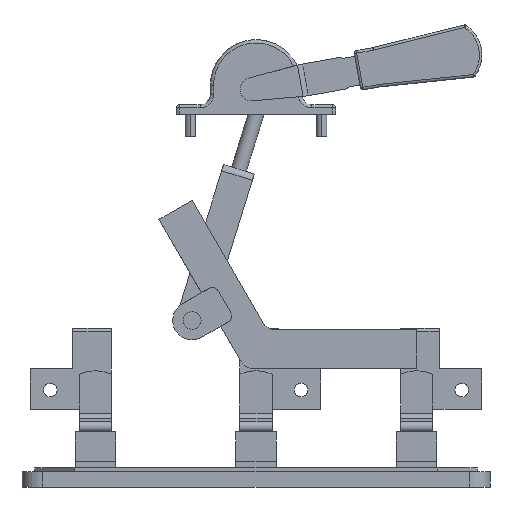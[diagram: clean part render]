
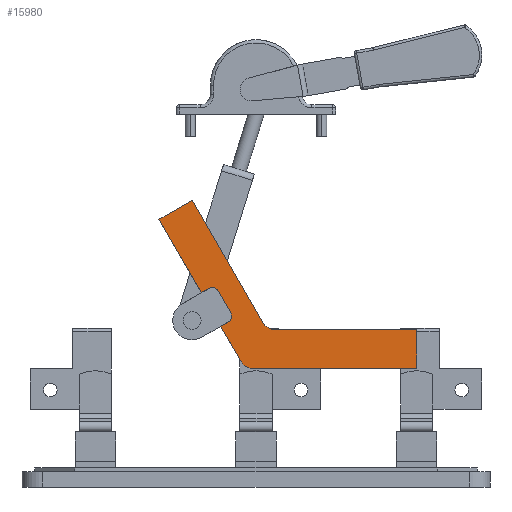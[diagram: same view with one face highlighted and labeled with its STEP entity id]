
A CAD part, left-side view. The second image highlights one B-rep face of the part: STEP entity #15980.
In plain terms, the highlighted planar face has unit normal (-1, 0, 0).
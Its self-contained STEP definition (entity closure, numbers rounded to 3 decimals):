
#36 = EDGE_CURVE ( 'NONE', #19304, #9626, #3433, .T. ) ;
#90 = DIRECTION ( 'NONE',  ( 0., 0., 1. ) ) ;
#327 = AXIS2_PLACEMENT_3D ( 'NONE', #7653, #26578, #5295 ) ;
#513 = VERTEX_POINT ( 'NONE', #24339 ) ;
#598 = LINE ( 'NONE', #20245, #29579 ) ;
#845 = VECTOR ( 'NONE', #14779, 1000. ) ;
#1955 = CARTESIAN_POINT ( 'NONE',  ( -88.5, 75.49, 193.253 ) ) ;
#3057 = VERTEX_POINT ( 'NONE', #16628 ) ;
#3433 = CIRCLE ( 'NONE', #24773, 10. ) ;
#3671 = LINE ( 'NONE', #7269, #27598 ) ;
#3683 = LINE ( 'NONE', #8233, #17711 ) ;
#3804 = LINE ( 'NONE', #1955, #22949 ) ;
#3987 = CARTESIAN_POINT ( 'NONE',  ( -88.5, 75.49, 193.253 ) ) ;
#4647 = ORIENTED_EDGE ( 'NONE', *, *, #29422, .T. ) ;
#5295 = DIRECTION ( 'NONE',  ( 0., 0., 1. ) ) ;
#5375 = LINE ( 'NONE', #24725, #7954 ) ;
#6094 = ORIENTED_EDGE ( 'NONE', *, *, #36, .T. ) ;
#6263 = ORIENTED_EDGE ( 'NONE', *, *, #9089, .F. ) ;
#6284 = VERTEX_POINT ( 'NONE', #15504 ) ;
#6350 = CARTESIAN_POINT ( 'NONE',  ( -88.5, 29.598, 137.765 ) ) ;
#6451 = CARTESIAN_POINT ( 'NONE',  ( -88.5, 19.598, 120.445 ) ) ;
#6539 = DIRECTION ( 'NONE',  ( 0., -0.5, -0.866 ) ) ;
#6698 = VERTEX_POINT ( 'NONE', #20008 ) ;
#6907 = DIRECTION ( 'NONE',  ( 0., 0., 1. ) ) ;
#7269 = CARTESIAN_POINT ( 'NONE',  ( -88.5, 49.51, 208.253 ) ) ;
#7613 = ORIENTED_EDGE ( 'NONE', *, *, #27451, .T. ) ;
#7653 = CARTESIAN_POINT ( 'NONE',  ( -88.5, 2.887, 87.5 ) ) ;
#7697 = EDGE_CURVE ( 'NONE', #3057, #6284, #16810, .T. ) ;
#7862 = DIRECTION ( 'NONE',  ( -1., 0., 0. ) ) ;
#7943 = VECTOR ( 'NONE', #8639, 1000. ) ;
#7954 = VECTOR ( 'NONE', #15209, 1000. ) ;
#8233 = CARTESIAN_POINT ( 'NONE',  ( -88.5, 75.49, 193.253 ) ) ;
#8314 = ORIENTED_EDGE ( 'NONE', *, *, #30448, .T. ) ;
#8579 = EDGE_CURVE ( 'NONE', #18324, #21338, #22901, .T. ) ;
#8639 = DIRECTION ( 'NONE',  ( 0., 0.5, 0.866 ) ) ;
#8853 = CARTESIAN_POINT ( 'NONE',  ( -88.5, -125., 77.5 ) ) ;
#9089 = EDGE_CURVE ( 'NONE', #513, #14436, #28773, .T. ) ;
#9626 = VERTEX_POINT ( 'NONE', #26834 ) ;
#9708 = DIRECTION ( 'NONE',  ( 1., 0., 0. ) ) ;
#9936 = EDGE_CURVE ( 'NONE', #10744, #10662, #19832, .T. ) ;
#10384 = CARTESIAN_POINT ( 'NONE',  ( -88.5, 42.49, 136.095 ) ) ;
#10617 = CIRCLE ( 'NONE', #24225, 5. ) ;
#10662 = VERTEX_POINT ( 'NONE', #10384 ) ;
#10741 = ORIENTED_EDGE ( 'NONE', *, *, #9936, .T. ) ;
#10744 = VERTEX_POINT ( 'NONE', #3987 ) ;
#10873 = EDGE_CURVE ( 'NONE', #29692, #3057, #19715, .T. ) ;
#11470 = ORIENTED_EDGE ( 'NONE', *, *, #7697, .F. ) ;
#11510 = DIRECTION ( 'NONE',  ( -1., 0., 0. ) ) ;
#11746 = CARTESIAN_POINT ( 'NONE',  ( -88.5, -14.434, 117.5 ) ) ;
#12698 = CARTESIAN_POINT ( 'NONE',  ( -88.5, 21.428, 113.615 ) ) ;
#13015 = AXIS2_PLACEMENT_3D ( 'NONE', #25584, #11510, #13890 ) ;
#13486 = CARTESIAN_POINT ( 'NONE',  ( -88.5, -125., 107.5 ) ) ;
#13549 = CARTESIAN_POINT ( 'NONE',  ( -88.5, 75.49, 193.253 ) ) ;
#13658 = EDGE_LOOP ( 'NONE', ( #24139, #11470, #30073, #17266, #6263, #22240, #18654, #24106, #8314, #19991, #6094, #7613, #4647, #10741 ) ) ;
#13876 = DIRECTION ( 'NONE',  ( -1., 0., 0. ) ) ;
#13890 = DIRECTION ( 'NONE',  ( 0., 0., -1. ) ) ;
#14436 = VERTEX_POINT ( 'NONE', #15384 ) ;
#14779 = DIRECTION ( 'NONE',  ( 0., -1., 0. ) ) ;
#15209 = DIRECTION ( 'NONE',  ( 0., 1., 0. ) ) ;
#15384 = CARTESIAN_POINT ( 'NONE',  ( -88.5, 21.428, 113.615 ) ) ;
#15504 = CARTESIAN_POINT ( 'NONE',  ( -88.5, 36.428, 139.595 ) ) ;
#15674 = CARTESIAN_POINT ( 'NONE',  ( -88.5, 2.887, 87.5 ) ) ;
#15891 = CARTESIAN_POINT ( 'NONE',  ( -88.5, -14.434, 107.5 ) ) ;
#15980 = ADVANCED_FACE ( 'NONE', ( #23628 ), #26388, .T. ) ;
#16089 = VECTOR ( 'NONE', #90, 1000. ) ;
#16149 = EDGE_CURVE ( 'NONE', #6698, #18324, #19561, .T. ) ;
#16628 = CARTESIAN_POINT ( 'NONE',  ( -88.5, 29.598, 137.765 ) ) ;
#16810 = CIRCLE ( 'NONE', #13015, 5. ) ;
#16847 = CARTESIAN_POINT ( 'NONE',  ( -88.5, -125., 77.5 ) ) ;
#17063 = CARTESIAN_POINT ( 'NONE',  ( -88.5, 2.887, 77.5 ) ) ;
#17266 = ORIENTED_EDGE ( 'NONE', *, *, #29735, .F. ) ;
#17275 = EDGE_CURVE ( 'NONE', #24014, #19304, #5375, .T. ) ;
#17711 = VECTOR ( 'NONE', #29181, 1000. ) ;
#18324 = VERTEX_POINT ( 'NONE', #18964 ) ;
#18513 = CARTESIAN_POINT ( 'NONE',  ( -88.5, 23.928, 117.945 ) ) ;
#18654 = ORIENTED_EDGE ( 'NONE', *, *, #16149, .T. ) ;
#18964 = CARTESIAN_POINT ( 'NONE',  ( -88.5, 2.887, 77.5 ) ) ;
#19304 = VERTEX_POINT ( 'NONE', #15891 ) ;
#19561 = CIRCLE ( 'NONE', #20961, 10. ) ;
#19715 = LINE ( 'NONE', #6350, #7943 ) ;
#19832 = LINE ( 'NONE', #13549, #26462 ) ;
#19952 = DIRECTION ( 'NONE',  ( 0., 0.866, -0.5 ) ) ;
#19991 = ORIENTED_EDGE ( 'NONE', *, *, #17275, .T. ) ;
#20008 = CARTESIAN_POINT ( 'NONE',  ( -88.5, 11.547, 82.5 ) ) ;
#20245 = CARTESIAN_POINT ( 'NONE',  ( -88.5, 36.428, 139.595 ) ) ;
#20366 = DIRECTION ( 'NONE',  ( 0., -0.5, -0.866 ) ) ;
#20874 = DIRECTION ( 'NONE',  ( 0., 0., -1. ) ) ;
#20961 = AXIS2_PLACEMENT_3D ( 'NONE', #15674, #7862, #29616 ) ;
#21267 = LINE ( 'NONE', #16847, #16089 ) ;
#21338 = VERTEX_POINT ( 'NONE', #8853 ) ;
#21981 = DIRECTION ( 'NONE',  ( 0., -0.866, 0.5 ) ) ;
#22240 = ORIENTED_EDGE ( 'NONE', *, *, #28545, .T. ) ;
#22901 = LINE ( 'NONE', #17063, #845 ) ;
#22949 = VECTOR ( 'NONE', #20366, 1000. ) ;
#23628 = FACE_OUTER_BOUND ( 'NONE', #13658, .T. ) ;
#23738 = DIRECTION ( 'NONE',  ( 0., 0.5, 0.866 ) ) ;
#24014 = VERTEX_POINT ( 'NONE', #13486 ) ;
#24106 = ORIENTED_EDGE ( 'NONE', *, *, #8579, .T. ) ;
#24139 = ORIENTED_EDGE ( 'NONE', *, *, #26155, .F. ) ;
#24225 = AXIS2_PLACEMENT_3D ( 'NONE', #18513, #13876, #20874 ) ;
#24339 = CARTESIAN_POINT ( 'NONE',  ( -88.5, 27.49, 110.115 ) ) ;
#24725 = CARTESIAN_POINT ( 'NONE',  ( -88.5, -14.434, 107.5 ) ) ;
#24773 = AXIS2_PLACEMENT_3D ( 'NONE', #11746, #9708, #6907 ) ;
#25584 = CARTESIAN_POINT ( 'NONE',  ( -88.5, 33.928, 135.265 ) ) ;
#25598 = VERTEX_POINT ( 'NONE', #29607 ) ;
#26155 = EDGE_CURVE ( 'NONE', #6284, #10662, #598, .T. ) ;
#26388 = PLANE ( 'NONE',  #327 ) ;
#26462 = VECTOR ( 'NONE', #6539, 1000. ) ;
#26578 = DIRECTION ( 'NONE',  ( -1., 0., 0. ) ) ;
#26834 = CARTESIAN_POINT ( 'NONE',  ( -88.5, -5.774, 112.5 ) ) ;
#27451 = EDGE_CURVE ( 'NONE', #9626, #25598, #3671, .T. ) ;
#27598 = VECTOR ( 'NONE', #23738, 1000. ) ;
#28545 = EDGE_CURVE ( 'NONE', #513, #6698, #3804, .T. ) ;
#28773 = LINE ( 'NONE', #12698, #29478 ) ;
#29181 = DIRECTION ( 'NONE',  ( 0., 0.866, -0.5 ) ) ;
#29422 = EDGE_CURVE ( 'NONE', #25598, #10744, #3683, .T. ) ;
#29478 = VECTOR ( 'NONE', #21981, 1000. ) ;
#29579 = VECTOR ( 'NONE', #19952, 1000. ) ;
#29607 = CARTESIAN_POINT ( 'NONE',  ( -88.5, 49.51, 208.253 ) ) ;
#29616 = DIRECTION ( 'NONE',  ( 0., 0., 1. ) ) ;
#29692 = VERTEX_POINT ( 'NONE', #6451 ) ;
#29735 = EDGE_CURVE ( 'NONE', #14436, #29692, #10617, .T. ) ;
#30073 = ORIENTED_EDGE ( 'NONE', *, *, #10873, .F. ) ;
#30448 = EDGE_CURVE ( 'NONE', #21338, #24014, #21267, .T. ) ;
